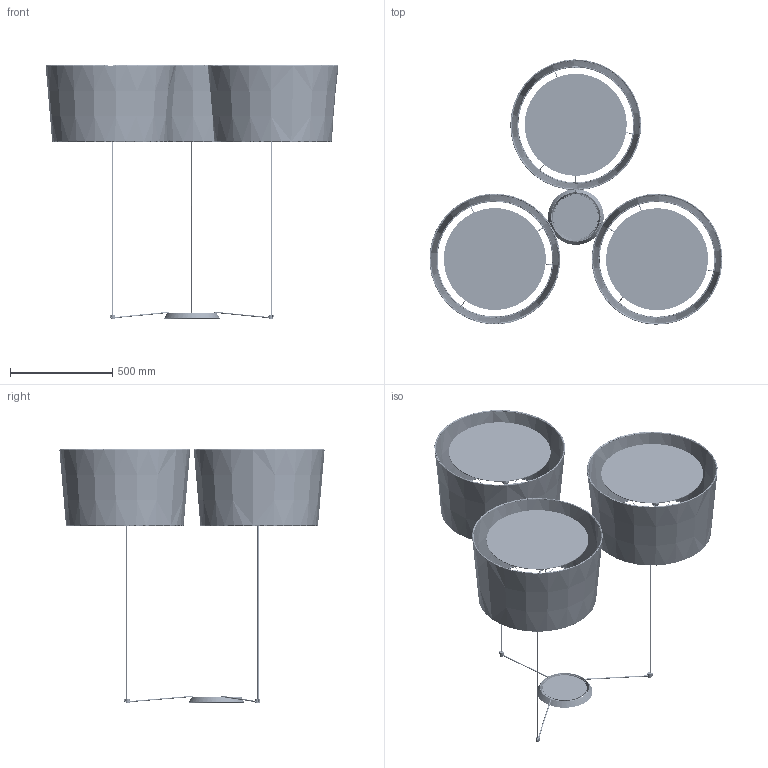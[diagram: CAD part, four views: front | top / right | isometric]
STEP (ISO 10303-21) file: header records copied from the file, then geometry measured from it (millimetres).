
FILE_DESCRIPTION(/* description */ (''),/* implementation_level */ '2;1');
FILE_NAME(/* name */ 'windsor_pendantlamp_3l.step',/* time_stamp */ '2025-01-13T16:39:47+01:00',/* author */ ('RenataManzini'),/* organization */ (''),/* preprocessor_version */ 'ST-DEVELOPER v20',/* originating_system */ 'AutoCAD Mechanical',/* authorisation */ '');
FILE_SCHEMA (('AUTOMOTIVE_DESIGN { 1 0 10303 214 3 1 1 }'));
Length unit declared in the file: millimetre
Products named in the file (2): Product; VENICE_CAN3 - 68603-537651-_3D_
Assembly tree (1 placements, depth 2):
  Product
    VENICE_CAN3 - 68603-537651-_3D_
Bounding box: 1435.17 x 1299.53 x 1242.61 mm (x, y, z)
Volume: 4710140.1 mm3; surface area: 6668894.9 mm2
Topology: 77 solids, 2006 shells, 2923 faces, 11570 edges, 10685 vertices
Faces by surface type: cylinder 1476, plane 574, torus 333, cone 312, bspline 228
Full cylindrical faces by diameter (mm): 4.541 x27, 10.383 x126, 11.083 x12
Entity records: 886849 total; most frequent: CARTESIAN_POINT 802908, ORIENTED_EDGE 13480, EDGE_CURVE 11567, DIRECTION 10986, VERTEX_POINT 10688, B_SPLINE_CURVE_WITH_KNOTS 6652, LINE 4162, VECTOR 4162
